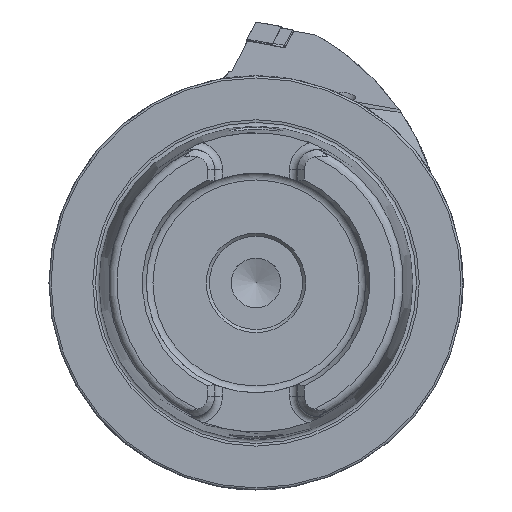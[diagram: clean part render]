
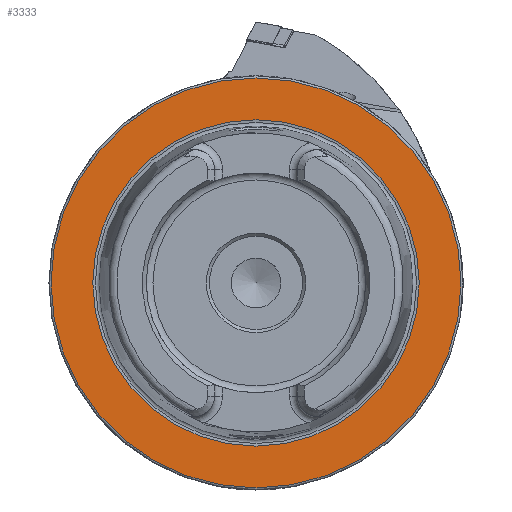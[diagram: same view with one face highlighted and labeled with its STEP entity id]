
A CAD part, left-side view. The second image highlights one B-rep face of the part: STEP entity #3333.
In plain terms, the highlighted planar face has unit normal (-1, 0, 0).
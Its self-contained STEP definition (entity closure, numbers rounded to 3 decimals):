
#438 = EDGE_LOOP ( 'NONE', ( #14601 ) ) ;
#560 = EDGE_CURVE ( 'NONE', #5224, #5224, #4140, .T. ) ;
#730 = CARTESIAN_POINT ( 'NONE',  ( 0., 0., 0. ) ) ;
#1748 = DIRECTION ( 'NONE',  ( 1., 0., 0. ) ) ;
#3010 = DIRECTION ( 'NONE',  ( -1., 0., 0. ) ) ;
#3177 = FACE_BOUND ( 'NONE', #12745, .T. ) ;
#3333 = ADVANCED_FACE ( 'NONE', ( #3177, #12749 ), #10959, .F. ) ;
#3616 = AXIS2_PLACEMENT_3D ( 'NONE', #730, #8765, #5331 ) ;
#3932 = AXIS2_PLACEMENT_3D ( 'NONE', #14605, #1748, #4034 ) ;
#4034 = DIRECTION ( 'NONE',  ( 0., 0., -1. ) ) ;
#4136 = CARTESIAN_POINT ( 'NONE',  ( 0., 0., 39.405 ) ) ;
#4140 = CIRCLE ( 'NONE', #3616, 39.405 ) ;
#4370 = ORIENTED_EDGE ( 'NONE', *, *, #560, .F. ) ;
#5224 = VERTEX_POINT ( 'NONE', #4136 ) ;
#5331 = DIRECTION ( 'NONE',  ( 0., 0., 1. ) ) ;
#5383 = CARTESIAN_POINT ( 'NONE',  ( 0., 0., 49.5 ) ) ;
#6304 = CARTESIAN_POINT ( 'NONE',  ( 0., 0., 0. ) ) ;
#7363 = VERTEX_POINT ( 'NONE', #5383 ) ;
#8424 = AXIS2_PLACEMENT_3D ( 'NONE', #6304, #3010, #13421 ) ;
#8765 = DIRECTION ( 'NONE',  ( -1., 0., 0. ) ) ;
#10959 = PLANE ( 'NONE',  #3932 ) ;
#11489 = EDGE_CURVE ( 'NONE', #7363, #7363, #13701, .T. ) ;
#12745 = EDGE_LOOP ( 'NONE', ( #4370 ) ) ;
#12749 = FACE_OUTER_BOUND ( 'NONE', #438, .T. ) ;
#13421 = DIRECTION ( 'NONE',  ( 0., 0., 1. ) ) ;
#13701 = CIRCLE ( 'NONE', #8424, 49.5 ) ;
#14601 = ORIENTED_EDGE ( 'NONE', *, *, #11489, .T. ) ;
#14605 = CARTESIAN_POINT ( 'NONE',  ( 0., 49.5, 0. ) ) ;
